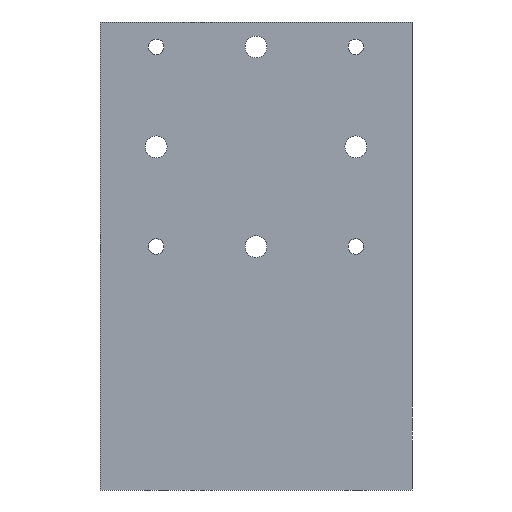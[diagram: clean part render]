
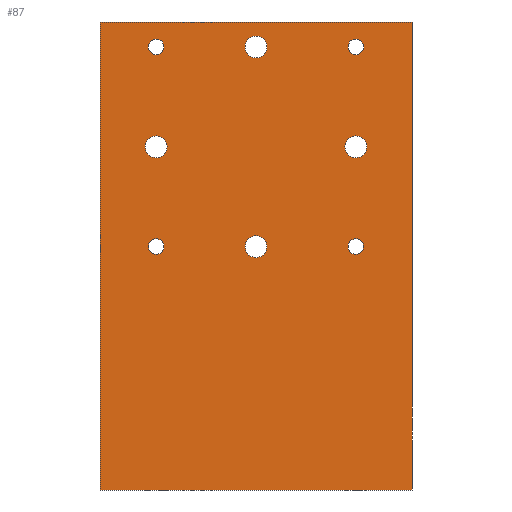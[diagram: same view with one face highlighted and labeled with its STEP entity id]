
A CAD part, front view. The second image highlights one B-rep face of the part: STEP entity #87.
In plain terms, the highlighted planar face has unit normal (0, -1, 0).
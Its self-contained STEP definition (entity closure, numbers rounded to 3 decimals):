
#87 = ADVANCED_FACE( '', ( #157, #158, #159, #160, #161, #162, #163, #164, #165 ), #166, .T. );
#157 = FACE_BOUND( '', #275, .T. );
#158 = FACE_BOUND( '', #276, .T. );
#159 = FACE_BOUND( '', #277, .T. );
#160 = FACE_BOUND( '', #278, .T. );
#161 = FACE_BOUND( '', #279, .T. );
#162 = FACE_BOUND( '', #280, .T. );
#163 = FACE_BOUND( '', #281, .T. );
#164 = FACE_BOUND( '', #282, .T. );
#165 = FACE_OUTER_BOUND( '', #283, .T. );
#166 = PLANE( '', #284 );
#275 = EDGE_LOOP( '', ( #453 ) );
#276 = EDGE_LOOP( '', ( #454 ) );
#277 = EDGE_LOOP( '', ( #455 ) );
#278 = EDGE_LOOP( '', ( #456 ) );
#279 = EDGE_LOOP( '', ( #457 ) );
#280 = EDGE_LOOP( '', ( #458 ) );
#281 = EDGE_LOOP( '', ( #459 ) );
#282 = EDGE_LOOP( '', ( #460 ) );
#283 = EDGE_LOOP( '', ( #461, #462, #463, #464 ) );
#284 = AXIS2_PLACEMENT_3D( '', #465, #466, #467 );
#453 = ORIENTED_EDGE( '', *, *, #684, .F. );
#454 = ORIENTED_EDGE( '', *, *, #685, .F. );
#455 = ORIENTED_EDGE( '', *, *, #686, .F. );
#456 = ORIENTED_EDGE( '', *, *, #687, .F. );
#457 = ORIENTED_EDGE( '', *, *, #688, .T. );
#458 = ORIENTED_EDGE( '', *, *, #689, .T. );
#459 = ORIENTED_EDGE( '', *, *, #690, .T. );
#460 = ORIENTED_EDGE( '', *, *, #691, .T. );
#461 = ORIENTED_EDGE( '', *, *, #692, .T. );
#462 = ORIENTED_EDGE( '', *, *, #637, .T. );
#463 = ORIENTED_EDGE( '', *, *, #693, .F. );
#464 = ORIENTED_EDGE( '', *, *, #681, .T. );
#465 = CARTESIAN_POINT( '', ( 0., -15., 0. ) );
#466 = DIRECTION( '', ( 0., -1., 0. ) );
#467 = DIRECTION( '', ( 0., 0., -1. ) );
#637 = EDGE_CURVE( '', #727, #725, #728, .T. );
#681 = EDGE_CURVE( '', #809, #806, #810, .T. );
#684 = EDGE_CURVE( '', #814, #814, #815, .T. );
#685 = EDGE_CURVE( '', #816, #816, #817, .T. );
#686 = EDGE_CURVE( '', #818, #818, #819, .T. );
#687 = EDGE_CURVE( '', #820, #820, #821, .T. );
#688 = EDGE_CURVE( '', #822, #822, #823, .T. );
#689 = EDGE_CURVE( '', #824, #824, #825, .T. );
#690 = EDGE_CURVE( '', #826, #826, #827, .T. );
#691 = EDGE_CURVE( '', #828, #828, #829, .T. );
#692 = EDGE_CURVE( '', #806, #727, #830, .T. );
#693 = EDGE_CURVE( '', #809, #725, #831, .T. );
#725 = VERTEX_POINT( '', #944 );
#727 = VERTEX_POINT( '', #947 );
#728 = LINE( '', #948, #949 );
#806 = VERTEX_POINT( '', #1240 );
#809 = VERTEX_POINT( '', #1244 );
#810 = LINE( '', #1245, #1246 );
#814 = VERTEX_POINT( '', #1252 );
#815 = CIRCLE( '', #1253, 1.75 );
#816 = VERTEX_POINT( '', #1254 );
#817 = CIRCLE( '', #1255, 1.75 );
#818 = VERTEX_POINT( '', #1256 );
#819 = CIRCLE( '', #1257, 1.75 );
#820 = VERTEX_POINT( '', #1258 );
#821 = CIRCLE( '', #1259, 1.75 );
#822 = VERTEX_POINT( '', #1260 );
#823 = CIRCLE( '', #1261, 1.25 );
#824 = VERTEX_POINT( '', #1262 );
#825 = CIRCLE( '', #1263, 1.25 );
#826 = VERTEX_POINT( '', #1264 );
#827 = CIRCLE( '', #1265, 1.25 );
#828 = VERTEX_POINT( '', #1266 );
#829 = CIRCLE( '', #1267, 1.25 );
#830 = LINE( '', #1268, #1269 );
#831 = LINE( '', #1270, #1271 );
#944 = CARTESIAN_POINT( '', ( -25., -15., 75. ) );
#947 = CARTESIAN_POINT( '', ( 25., -15., 75. ) );
#948 = CARTESIAN_POINT( '', ( 0., -15., 75. ) );
#949 = VECTOR( '', #1330, 1000. );
#1240 = CARTESIAN_POINT( '', ( 25., -15., 0. ) );
#1244 = CARTESIAN_POINT( '', ( -25., -15., 0. ) );
#1245 = CARTESIAN_POINT( '', ( 0., -15., 0. ) );
#1246 = VECTOR( '', #1414, 1000. );
#1252 = CARTESIAN_POINT( '', ( -16., -15., 53.25 ) );
#1253 = AXIS2_PLACEMENT_3D( '', #1417, #1418, #1419 );
#1254 = CARTESIAN_POINT( '', ( 0., -15., 69.25 ) );
#1255 = AXIS2_PLACEMENT_3D( '', #1420, #1421, #1422 );
#1256 = CARTESIAN_POINT( '', ( 16., -15., 53.25 ) );
#1257 = AXIS2_PLACEMENT_3D( '', #1423, #1424, #1425 );
#1258 = CARTESIAN_POINT( '', ( 0., -15., 37.25 ) );
#1259 = AXIS2_PLACEMENT_3D( '', #1426, #1427, #1428 );
#1260 = CARTESIAN_POINT( '', ( 17.25, -15., 39. ) );
#1261 = AXIS2_PLACEMENT_3D( '', #1429, #1430, #1431 );
#1262 = CARTESIAN_POINT( '', ( 17.25, -15., 71. ) );
#1263 = AXIS2_PLACEMENT_3D( '', #1432, #1433, #1434 );
#1264 = CARTESIAN_POINT( '', ( -14.75, -15., 71. ) );
#1265 = AXIS2_PLACEMENT_3D( '', #1435, #1436, #1437 );
#1266 = CARTESIAN_POINT( '', ( -14.75, -15., 39. ) );
#1267 = AXIS2_PLACEMENT_3D( '', #1438, #1439, #1440 );
#1268 = CARTESIAN_POINT( '', ( 25., -15., 0. ) );
#1269 = VECTOR( '', #1441, 1000. );
#1270 = CARTESIAN_POINT( '', ( -25., -15., 0. ) );
#1271 = VECTOR( '', #1442, 1000. );
#1330 = DIRECTION( '', ( -1., 0., 0. ) );
#1414 = DIRECTION( '', ( 1., 0., 0. ) );
#1417 = CARTESIAN_POINT( '', ( -16., -15., 55. ) );
#1418 = DIRECTION( '', ( 0., -1., 0. ) );
#1419 = DIRECTION( '', ( 0., 0., -1. ) );
#1420 = CARTESIAN_POINT( '', ( 0., -15., 71. ) );
#1421 = DIRECTION( '', ( 0., -1., 0. ) );
#1422 = DIRECTION( '', ( 0., 0., -1. ) );
#1423 = CARTESIAN_POINT( '', ( 16., -15., 55. ) );
#1424 = DIRECTION( '', ( 0., -1., 0. ) );
#1425 = DIRECTION( '', ( 0., 0., -1. ) );
#1426 = CARTESIAN_POINT( '', ( 0., -15., 39. ) );
#1427 = DIRECTION( '', ( 0., -1., 0. ) );
#1428 = DIRECTION( '', ( 0., 0., -1. ) );
#1429 = CARTESIAN_POINT( '', ( 16., -15., 39. ) );
#1430 = DIRECTION( '', ( 0., 1., 0. ) );
#1431 = DIRECTION( '', ( 1., 0., 0. ) );
#1432 = CARTESIAN_POINT( '', ( 16., -15., 71. ) );
#1433 = DIRECTION( '', ( 0., 1., 0. ) );
#1434 = DIRECTION( '', ( 1., 0., 0. ) );
#1435 = CARTESIAN_POINT( '', ( -16., -15., 71. ) );
#1436 = DIRECTION( '', ( 0., 1., 0. ) );
#1437 = DIRECTION( '', ( 1., 0., 0. ) );
#1438 = CARTESIAN_POINT( '', ( -16., -15., 39. ) );
#1439 = DIRECTION( '', ( 0., 1., 0. ) );
#1440 = DIRECTION( '', ( 1., 0., 0. ) );
#1441 = DIRECTION( '', ( 0., 0., 1. ) );
#1442 = DIRECTION( '', ( 0., 0., 1. ) );
